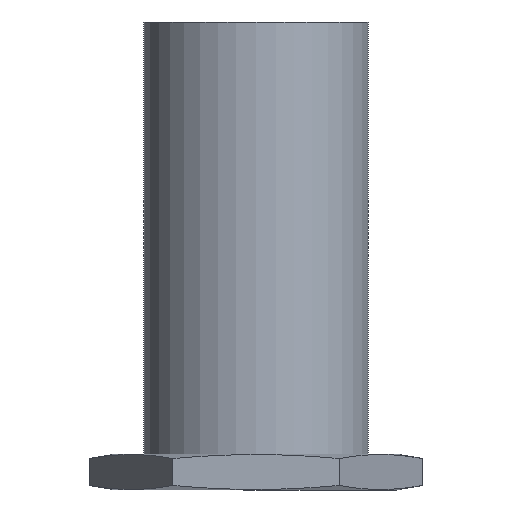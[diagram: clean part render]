
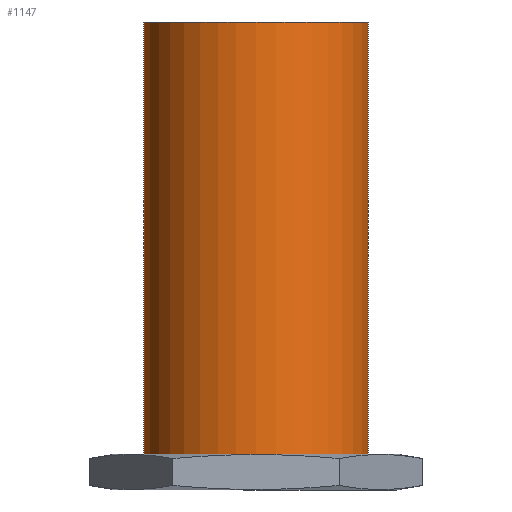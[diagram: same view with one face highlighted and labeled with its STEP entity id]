
A CAD part, front view. The second image highlights one B-rep face of the part: STEP entity #1147.
In plain terms, the highlighted cylindrical face has radius 12.5 mm (diameter 25 mm), a partial arc.
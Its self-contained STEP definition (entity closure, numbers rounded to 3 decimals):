
#82 = CARTESIAN_POINT ( 'NONE',  ( 12.5, 0., 4. ) ) ;
#187 = AXIS2_PLACEMENT_3D ( 'NONE', #890, #1451, #727 ) ;
#257 = VECTOR ( 'NONE', #1643, 1000. ) ;
#270 = LINE ( 'NONE', #1907, #322 ) ;
#288 = EDGE_CURVE ( 'NONE', #1694, #592, #1886, .T. ) ;
#293 = CARTESIAN_POINT ( 'NONE',  ( 12.5, 0., 52. ) ) ;
#322 = VECTOR ( 'NONE', #1616, 1000. ) ;
#384 = EDGE_LOOP ( 'NONE', ( #1734, #1774, #638, #1861 ) ) ;
#408 = EDGE_CURVE ( 'NONE', #1158, #521, #700, .T. ) ;
#450 = CARTESIAN_POINT ( 'NONE',  ( 12.5, 0., 52. ) ) ;
#521 = VERTEX_POINT ( 'NONE', #82 ) ;
#592 = VERTEX_POINT ( 'NONE', #293 ) ;
#624 = DIRECTION ( 'NONE',  ( -1., 0., 0. ) ) ;
#638 = ORIENTED_EDGE ( 'NONE', *, *, #845, .T. ) ;
#700 = CIRCLE ( 'NONE', #1794, 12.5 ) ;
#727 = DIRECTION ( 'NONE',  ( 1., 0., 0. ) ) ;
#784 = CARTESIAN_POINT ( 'NONE',  ( 0., 0., 52. ) ) ;
#832 = DIRECTION ( 'NONE',  ( 0., 0., 1. ) ) ;
#845 = EDGE_CURVE ( 'NONE', #1694, #1158, #270, .T. ) ;
#890 = CARTESIAN_POINT ( 'NONE',  ( 0., 0., 52. ) ) ;
#958 = DIRECTION ( 'NONE',  ( 1., 0., 0. ) ) ;
#992 = CARTESIAN_POINT ( 'NONE',  ( -12.5, 0., 52. ) ) ;
#1076 = DIRECTION ( 'NONE',  ( 0., 0., -1. ) ) ;
#1081 = EDGE_CURVE ( 'NONE', #592, #521, #1911, .T. ) ;
#1147 = ADVANCED_FACE ( 'NONE', ( #1541 ), #1228, .T. ) ;
#1158 = VERTEX_POINT ( 'NONE', #1810 ) ;
#1228 = CYLINDRICAL_SURFACE ( 'NONE', #1361, 12.5 ) ;
#1361 = AXIS2_PLACEMENT_3D ( 'NONE', #784, #1076, #624 ) ;
#1451 = DIRECTION ( 'NONE',  ( 0., 0., 1. ) ) ;
#1541 = FACE_OUTER_BOUND ( 'NONE', #384, .T. ) ;
#1616 = DIRECTION ( 'NONE',  ( 0., 0., -1. ) ) ;
#1643 = DIRECTION ( 'NONE',  ( 0., 0., -1. ) ) ;
#1694 = VERTEX_POINT ( 'NONE', #992 ) ;
#1734 = ORIENTED_EDGE ( 'NONE', *, *, #1081, .F. ) ;
#1774 = ORIENTED_EDGE ( 'NONE', *, *, #288, .F. ) ;
#1794 = AXIS2_PLACEMENT_3D ( 'NONE', #1864, #832, #958 ) ;
#1810 = CARTESIAN_POINT ( 'NONE',  ( -12.5, 0., 4. ) ) ;
#1861 = ORIENTED_EDGE ( 'NONE', *, *, #408, .T. ) ;
#1864 = CARTESIAN_POINT ( 'NONE',  ( 0., 0., 4. ) ) ;
#1886 = CIRCLE ( 'NONE', #187, 12.5 ) ;
#1907 = CARTESIAN_POINT ( 'NONE',  ( -12.5, 0., 52. ) ) ;
#1911 = LINE ( 'NONE', #450, #257 ) ;
